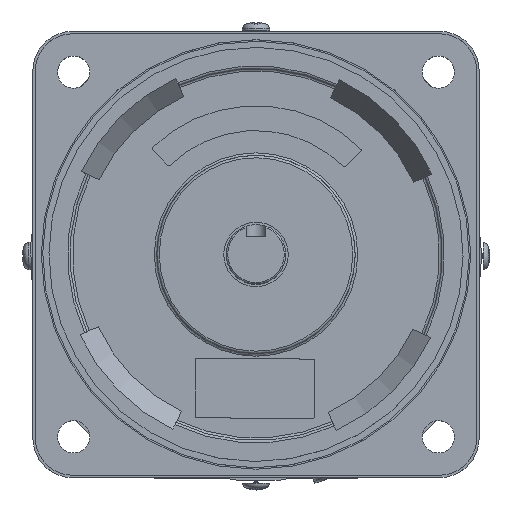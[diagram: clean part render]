
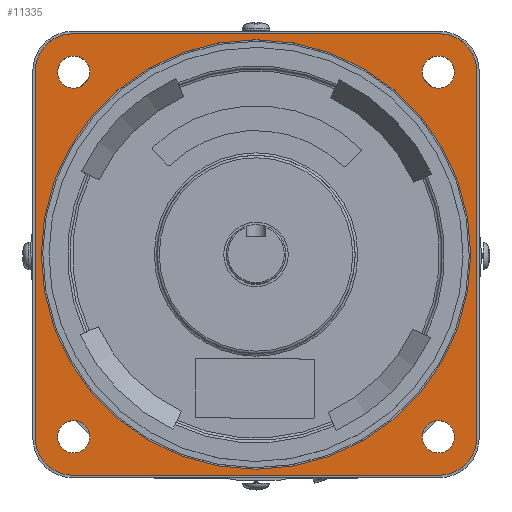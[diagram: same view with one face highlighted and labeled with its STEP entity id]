
A CAD part, top view. The second image highlights one B-rep face of the part: STEP entity #11335.
In plain terms, the highlighted planar face has unit normal (0, 0, 1).
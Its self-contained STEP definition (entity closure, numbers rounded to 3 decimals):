
#593=FACE_BOUND('',#1628,.T.);
#594=FACE_BOUND('',#1629,.T.);
#595=FACE_BOUND('',#1630,.T.);
#596=FACE_BOUND('',#1631,.T.);
#597=FACE_BOUND('',#1632,.T.);
#719=PLANE('',#12015);
#978=FACE_OUTER_BOUND('',#1627,.T.);
#1627=EDGE_LOOP('',(#7257,#7258,#7259,#7260,#7261,#7262,#7263,#7264));
#1628=EDGE_LOOP('',(#7265));
#1629=EDGE_LOOP('',(#7266));
#1630=EDGE_LOOP('',(#7267));
#1631=EDGE_LOOP('',(#7268));
#1632=EDGE_LOOP('',(#7269));
#2448=CIRCLE('',#12016,7.5);
#2449=CIRCLE('',#12017,7.5);
#2450=CIRCLE('',#12018,7.5);
#2451=CIRCLE('',#12019,7.5);
#2452=CIRCLE('',#12020,3.25);
#2453=CIRCLE('',#12021,3.25);
#2454=CIRCLE('',#12022,43.3);
#2455=CIRCLE('',#12023,3.25);
#2456=CIRCLE('',#12024,3.25);
#3153=LINE('',#16745,#3808);
#3154=LINE('',#16749,#3809);
#3155=LINE('',#16753,#3810);
#3156=LINE('',#16756,#3811);
#3808=VECTOR('',#13377,74.);
#3809=VECTOR('',#13380,74.);
#3810=VECTOR('',#13383,74.);
#3811=VECTOR('',#13386,74.);
#4475=VERTEX_POINT('',#16741);
#4476=VERTEX_POINT('',#16742);
#4477=VERTEX_POINT('',#16744);
#4478=VERTEX_POINT('',#16746);
#4479=VERTEX_POINT('',#16748);
#4480=VERTEX_POINT('',#16750);
#4481=VERTEX_POINT('',#16752);
#4482=VERTEX_POINT('',#16754);
#4483=VERTEX_POINT('',#16757);
#4484=VERTEX_POINT('',#16759);
#4485=VERTEX_POINT('',#16761);
#4486=VERTEX_POINT('',#16763);
#4487=VERTEX_POINT('',#16765);
#5578=EDGE_CURVE('',#4475,#4476,#2448,.T.);
#5579=EDGE_CURVE('',#4477,#4475,#3153,.T.);
#5580=EDGE_CURVE('',#4478,#4477,#2449,.T.);
#5581=EDGE_CURVE('',#4479,#4478,#3154,.T.);
#5582=EDGE_CURVE('',#4480,#4479,#2450,.T.);
#5583=EDGE_CURVE('',#4481,#4480,#3155,.T.);
#5584=EDGE_CURVE('',#4482,#4481,#2451,.T.);
#5585=EDGE_CURVE('',#4476,#4482,#3156,.T.);
#5586=EDGE_CURVE('',#4483,#4483,#2452,.F.);
#5587=EDGE_CURVE('',#4484,#4484,#2453,.F.);
#5588=EDGE_CURVE('',#4485,#4485,#2454,.T.);
#5589=EDGE_CURVE('',#4486,#4486,#2455,.F.);
#5590=EDGE_CURVE('',#4487,#4487,#2456,.F.);
#7257=ORIENTED_EDGE('',*,*,#5578,.F.);
#7258=ORIENTED_EDGE('',*,*,#5579,.F.);
#7259=ORIENTED_EDGE('',*,*,#5580,.F.);
#7260=ORIENTED_EDGE('',*,*,#5581,.F.);
#7261=ORIENTED_EDGE('',*,*,#5582,.F.);
#7262=ORIENTED_EDGE('',*,*,#5583,.F.);
#7263=ORIENTED_EDGE('',*,*,#5584,.F.);
#7264=ORIENTED_EDGE('',*,*,#5585,.F.);
#7265=ORIENTED_EDGE('',*,*,#5586,.F.);
#7266=ORIENTED_EDGE('',*,*,#5587,.F.);
#7267=ORIENTED_EDGE('',*,*,#5588,.T.);
#7268=ORIENTED_EDGE('',*,*,#5589,.F.);
#7269=ORIENTED_EDGE('',*,*,#5590,.F.);
#11335=ADVANCED_FACE('',(#978,#593,#594,#595,#596,#597),#719,.T.);
#12015=AXIS2_PLACEMENT_3D('',#16740,#13373,#13374);
#12016=AXIS2_PLACEMENT_3D('',#16743,#13375,#13376);
#12017=AXIS2_PLACEMENT_3D('',#16747,#13378,#13379);
#12018=AXIS2_PLACEMENT_3D('',#16751,#13381,#13382);
#12019=AXIS2_PLACEMENT_3D('',#16755,#13384,#13385);
#12020=AXIS2_PLACEMENT_3D('',#16758,#13387,#13388);
#12021=AXIS2_PLACEMENT_3D('',#16760,#13389,#13390);
#12022=AXIS2_PLACEMENT_3D('',#16762,#13391,#13392);
#12023=AXIS2_PLACEMENT_3D('',#16764,#13393,#13394);
#12024=AXIS2_PLACEMENT_3D('',#16766,#13395,#13396);
#13373=DIRECTION('center_axis',(0.,0.,1.));
#13374=DIRECTION('ref_axis',(1.,0.,0.));
#13375=DIRECTION('center_axis',(0.,0.,-1.));
#13376=DIRECTION('ref_axis',(0.,-1.,0.));
#13377=DIRECTION('',(0.,1.,0.));
#13378=DIRECTION('center_axis',(0.,0.,-1.));
#13379=DIRECTION('ref_axis',(1.,0.,0.));
#13380=DIRECTION('',(-1.,0.,0.));
#13381=DIRECTION('center_axis',(0.,0.,-1.));
#13382=DIRECTION('ref_axis',(0.,1.,0.));
#13383=DIRECTION('',(0.,-1.,0.));
#13384=DIRECTION('center_axis',(0.,0.,-1.));
#13385=DIRECTION('ref_axis',(-1.,0.,0.));
#13386=DIRECTION('',(1.,0.,0.));
#13387=DIRECTION('center_axis',(0.,0.,-1.));
#13388=DIRECTION('ref_axis',(0.,1.,0.));
#13389=DIRECTION('center_axis',(0.,0.,-1.));
#13390=DIRECTION('ref_axis',(-1.,0.,0.));
#13391=DIRECTION('center_axis',(0.,0.,-1.));
#13392=DIRECTION('ref_axis',(0.,1.,0.));
#13393=DIRECTION('center_axis',(0.,0.,-1.));
#13394=DIRECTION('ref_axis',(0.,-1.,0.));
#13395=DIRECTION('center_axis',(0.,0.,-1.));
#13396=DIRECTION('ref_axis',(1.,0.,0.));
#16740=CARTESIAN_POINT('Origin',(0.355,5.246,-6.569));
#16741=CARTESIAN_POINT('',(-44.145,42.246,-6.569));
#16742=CARTESIAN_POINT('',(-36.645,49.746,-6.569));
#16743=CARTESIAN_POINT('Origin',(-36.645,42.246,-6.569));
#16744=CARTESIAN_POINT('',(-44.145,-31.754,-6.569));
#16745=CARTESIAN_POINT('',(-44.145,-31.754,-6.569));
#16746=CARTESIAN_POINT('',(-36.645,-39.254,-6.569));
#16747=CARTESIAN_POINT('Origin',(-36.645,-31.754,-6.569));
#16748=CARTESIAN_POINT('',(37.355,-39.254,-6.569));
#16749=CARTESIAN_POINT('',(37.355,-39.254,-6.569));
#16750=CARTESIAN_POINT('',(44.855,-31.754,-6.569));
#16751=CARTESIAN_POINT('Origin',(37.355,-31.754,-6.569));
#16752=CARTESIAN_POINT('',(44.855,42.246,-6.569));
#16753=CARTESIAN_POINT('',(44.855,42.246,-6.569));
#16754=CARTESIAN_POINT('',(37.355,49.746,-6.569));
#16755=CARTESIAN_POINT('Origin',(37.355,42.246,-6.569));
#16756=CARTESIAN_POINT('',(-36.645,49.746,-6.569));
#16757=CARTESIAN_POINT('',(37.124,-34.774,-6.569));
#16758=CARTESIAN_POINT('Origin',(37.124,-31.524,-6.569));
#16759=CARTESIAN_POINT('',(40.374,42.015,-6.569));
#16760=CARTESIAN_POINT('Origin',(37.124,42.015,-6.569));
#16761=CARTESIAN_POINT('',(43.655,5.246,-6.569));
#16762=CARTESIAN_POINT('Origin',(0.355,5.246,-6.569));
#16763=CARTESIAN_POINT('',(-36.415,45.265,-6.569));
#16764=CARTESIAN_POINT('Origin',(-36.415,42.015,-6.569));
#16765=CARTESIAN_POINT('',(-39.665,-31.524,-6.569));
#16766=CARTESIAN_POINT('Origin',(-36.415,-31.524,-6.569));
